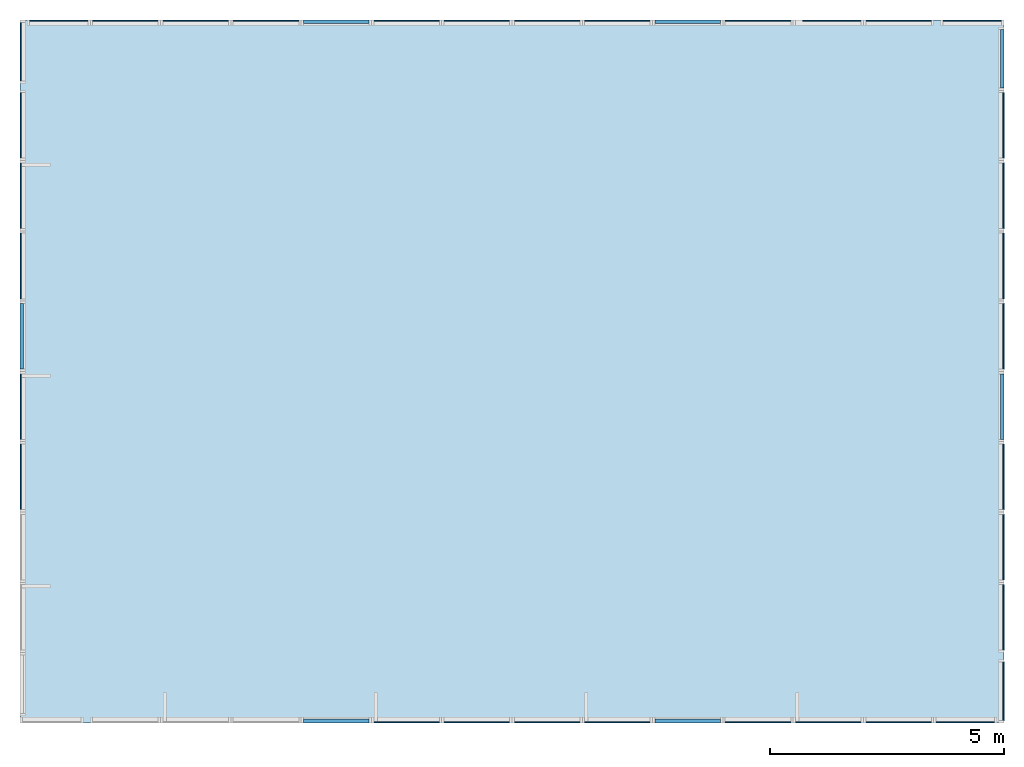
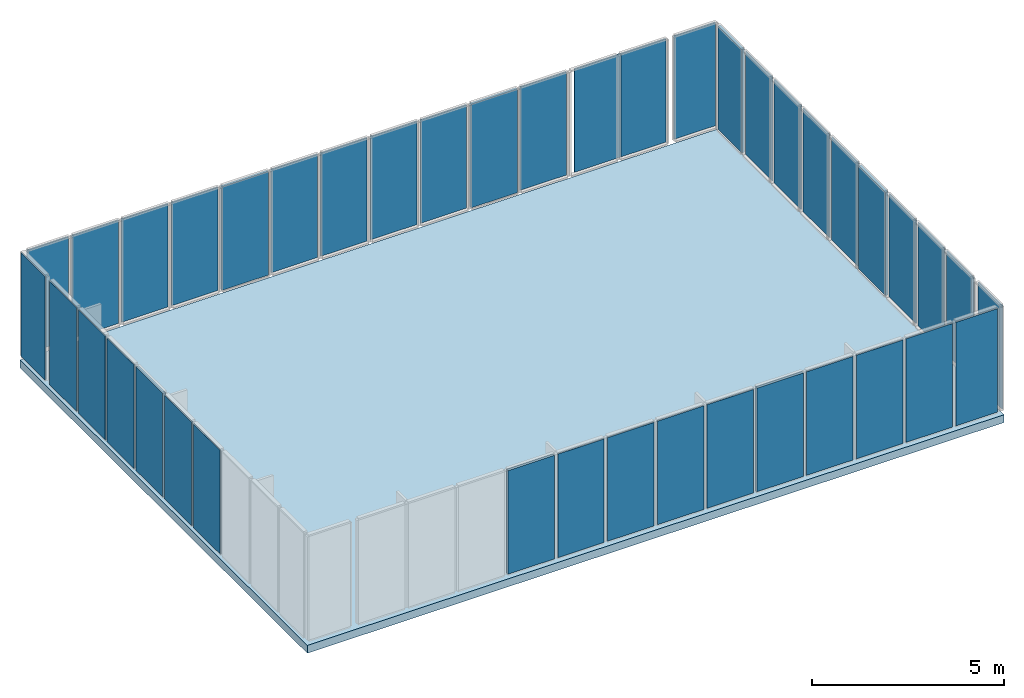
# One storey, part 3 of 3: 41 plates, 1 slab.
"""IFC4 building model written with IfcOpenShell, lengths in metres."""

from ifc_helpers import new_model, si_unit, frame, origin_with_axes, place, context, subcontext, project, spatial, indexed_curve, outline, extrude, material, element, save


model = new_model("IFC4")

# Units and contexts
model_context = context("Model", 3, precision=1e-05, world=origin_with_axes())
body_context = subcontext(model_context, "Body", "Model", "MODEL_VIEW")
ifc_project = project(units=[si_unit("AREAUNIT", "SQUARE_METRE"), si_unit("VOLUMEUNIT", "CUBIC_METRE"), si_unit("LENGTHUNIT", "METRE")], contexts=[model_context])

# Site, building, storey
site = spatial("IfcSite", under=ifc_project, Name="Synthetic Site")
building = spatial("IfcBuilding", under=site, Name="Complex Tower")
storey_placement = place(None, frame((0.0, 0.0, 27.0), z_axis=(0.0, 0.0, 1.0), x_axis=(1.0, 0.0, 0.0)))
storey = spatial("IfcBuildingStorey", under=building, at=storey_placement, Name="L08", Elevation=27.0)

# Plates
ifc_material_1 = material(Name="Aluminium")
plate_1_placement = place(storey_placement, frame((9.05, 1.5, 0.14999999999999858), z_axis=(0.0, 0.0, 1.0), x_axis=(1.0, 0.0, 0.0)))
element("IfcPlate", 1, at=plate_1_placement, inside=storey, material=ifc_material_1, Name="CT-L08-S-005", PredefinedType="SHEET", context=body_context, shape_type="SweptSolid", body=[
    extrude(outline(indexed_curve([(0.0, 0.0), (0.0, 0.08), (1.4, 0.08), (1.4, 0.0), (0.0, 0.0)], self_intersect=False)), origin_with_axes(), (0.0, 0.0, 1.0), 3.3000000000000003),
])
ifc_material_2 = material(Name="Glass")
for number, where, z_axis, x_axis, name in (
    (2, (10.55, 1.5, 0.14999999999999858), (0.0, 0.0, 1.0), (1.0, 0.0, 0.0), "CT-L08-S-006"),
    (3, (12.05, 1.5, 0.14999999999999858), (0.0, 0.0, 1.0), (1.0, 0.0, 0.0), "CT-L08-S-007"),
    (4, (13.55, 1.5, 0.14999999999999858), (0.0, 0.0, 1.0), (1.0, 0.0, 0.0), "CT-L08-S-008"),
    (5, (15.05, 1.5, 0.14999999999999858), (0.0, 0.0, 1.0), (1.0, 0.0, 0.0), "CT-L08-S-009"),
):
    element("IfcPlate", number, at=place(storey_placement, frame(where, z_axis=z_axis, x_axis=x_axis)), inside=storey, material=ifc_material_2, Name=name, PredefinedType="CURTAIN_PANEL", context=body_context, shape_type="SweptSolid", body=[
        extrude(outline(indexed_curve([(0.0, 0.0), (0.0, 0.028), (1.4, 0.028), (1.4, 0.0), (0.0, 0.0)], self_intersect=False)), origin_with_axes(), (0.0, 0.0, 1.0), 3.3000000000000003),
    ])
plate_2_placement = place(storey_placement, frame((16.55, 1.5, 0.14999999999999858), z_axis=(0.0, 0.0, 1.0), x_axis=(1.0, 0.0, 0.0)))
element("IfcPlate", 6, at=plate_2_placement, inside=storey, material=ifc_material_1, Name="CT-L08-S-010", PredefinedType="SHEET", context=body_context, shape_type="SweptSolid", body=[
    extrude(outline(indexed_curve([(0.0, 0.0), (0.0, 0.08), (1.4, 0.08), (1.4, 0.0), (0.0, 0.0)], self_intersect=False)), origin_with_axes(), (0.0, 0.0, 1.0), 3.3000000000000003),
])
for number, where, z_axis, x_axis, name in (
    (7, (18.05, 1.5, 0.14999999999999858), (0.0, 0.0, 1.0), (1.0, 0.0, 0.0), "CT-L08-S-011"),
    (8, (19.55, 1.5, 0.14999999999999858), (0.0, 0.0, 1.0), (1.0, 0.0, 0.0), "CT-L08-S-012"),
    (9, (21.05, 1.5, 0.14999999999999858), (0.0, 0.0, 1.0), (1.0, 0.0, 0.0), "CT-L08-S-013"),
):
    element("IfcPlate", number, at=place(storey_placement, frame(where, z_axis=z_axis, x_axis=x_axis)), inside=storey, material=ifc_material_2, Name=name, PredefinedType="CURTAIN_PANEL", context=body_context, shape_type="SweptSolid", body=[
        extrude(outline(indexed_curve([(0.0, 0.0), (0.0, 0.028), (1.4, 0.028), (1.4, 0.0), (0.0, 0.0)], self_intersect=False)), origin_with_axes(), (0.0, 0.0, 1.0), 3.3000000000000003),
    ])
for number, where, z_axis, x_axis, name in (
    (10, (22.55, 1.5, 0.14999999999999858), (0.0, 0.0, 1.0), (1.0, 0.0, 0.0), "CT-L08-S-014"),
    (11, (24.0, 1.55, 0.14999999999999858), (0.0, 0.0, 1.0), (6.123233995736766e-17, 1.0, 0.0), "CT-L08-E-001"),
):
    element("IfcPlate", number, at=place(storey_placement, frame(where, z_axis=z_axis, x_axis=x_axis)), inside=storey, material=ifc_material_2, Name=name, PredefinedType="CURTAIN_PANEL", context=body_context, shape_type="SweptSolid", body=[
        extrude(outline(indexed_curve([(0.0, 0.0), (0.0, 0.028), (1.25, 0.028), (1.25, 0.0), (0.0, 0.0)], self_intersect=False)), origin_with_axes(), (0.0, 0.0, 1.0), 3.3000000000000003),
    ])
for number, where, z_axis, x_axis, name in (
    (12, (24.0, 3.05, 0.14999999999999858), (0.0, 0.0, 1.0), (6.123233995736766e-17, 1.0, 0.0), "CT-L08-E-002"),
    (13, (24.0, 4.55, 0.14999999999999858), (0.0, 0.0, 1.0), (6.123233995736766e-17, 1.0, 0.0), "CT-L08-E-003"),
    (14, (24.0, 6.05, 0.14999999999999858), (0.0, 0.0, 1.0), (6.123233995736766e-17, 1.0, 0.0), "CT-L08-E-004"),
):
    element("IfcPlate", number, at=place(storey_placement, frame(where, z_axis=z_axis, x_axis=x_axis)), inside=storey, material=ifc_material_2, Name=name, PredefinedType="CURTAIN_PANEL", context=body_context, shape_type="SweptSolid", body=[
        extrude(outline(indexed_curve([(0.0, 0.0), (0.0, 0.028), (1.4, 0.028), (1.4, 0.0), (0.0, 0.0)], self_intersect=False)), origin_with_axes(), (0.0, 0.0, 1.0), 3.3000000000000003),
    ])
plate_3_placement = place(storey_placement, frame((24.0, 7.55, 0.14999999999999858), z_axis=(0.0, 0.0, 1.0), x_axis=(6.123233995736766e-17, 1.0, 0.0)))
element("IfcPlate", 15, at=plate_3_placement, inside=storey, material=ifc_material_1, Name="CT-L08-E-005", PredefinedType="SHEET", context=body_context, shape_type="SweptSolid", body=[
    extrude(outline(indexed_curve([(0.0, 0.0), (0.0, 0.08), (1.4, 0.08), (1.4, 0.0), (0.0, 0.0)], self_intersect=False)), origin_with_axes(), (0.0, 0.0, 1.0), 3.3000000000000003),
])
for number, where, z_axis, x_axis, name in (
    (16, (24.0, 9.05, 0.14999999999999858), (0.0, 0.0, 1.0), (6.123233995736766e-17, 1.0, 0.0), "CT-L08-E-006"),
    (17, (24.0, 10.55, 0.14999999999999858), (0.0, 0.0, 1.0), (6.123233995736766e-17, 1.0, 0.0), "CT-L08-E-007"),
    (18, (24.0, 12.05, 0.14999999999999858), (0.0, 0.0, 1.0), (6.123233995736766e-17, 1.0, 0.0), "CT-L08-E-008"),
    (19, (24.0, 13.55, 0.14999999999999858), (0.0, 0.0, 1.0), (6.123233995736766e-17, 1.0, 0.0), "CT-L08-E-009"),
):
    element("IfcPlate", number, at=place(storey_placement, frame(where, z_axis=z_axis, x_axis=x_axis)), inside=storey, material=ifc_material_2, Name=name, PredefinedType="CURTAIN_PANEL", context=body_context, shape_type="SweptSolid", body=[
        extrude(outline(indexed_curve([(0.0, 0.0), (0.0, 0.028), (1.4, 0.028), (1.4, 0.0), (0.0, 0.0)], self_intersect=False)), origin_with_axes(), (0.0, 0.0, 1.0), 3.3000000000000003),
    ])
plate_4_placement = place(storey_placement, frame((24.0, 15.05, 0.14999999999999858), z_axis=(0.0, 0.0, 1.0), x_axis=(6.123233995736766e-17, 1.0, 0.0)))
element("IfcPlate", 20, at=plate_4_placement, inside=storey, material=ifc_material_1, Name="CT-L08-E-010", PredefinedType="SHEET", context=body_context, shape_type="SweptSolid", body=[
    extrude(outline(indexed_curve([(0.0, 0.0), (0.0, 0.08), (1.25, 0.08), (1.25, 0.0), (0.0, 0.0)], self_intersect=False)), origin_with_axes(), (0.0, 0.0, 1.0), 3.3000000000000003),
])
plate_5_placement = place(storey_placement, frame((23.95, 16.5, 0.14999999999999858), z_axis=(0.0, 0.0, 1.0), x_axis=(-1.0, 1.2246467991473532e-16, 0.0)))
element("IfcPlate", 21, at=plate_5_placement, inside=storey, material=ifc_material_2, Name="CT-L08-N-001", PredefinedType="CURTAIN_PANEL", context=body_context, shape_type="SweptSolid", body=[
    extrude(outline(indexed_curve([(0.0, 0.0), (0.0, 0.028), (1.25, 0.028), (1.25, 0.0), (0.0, 0.0)], self_intersect=False)), origin_with_axes(), (0.0, 0.0, 1.0), 3.3000000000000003),
])
for number, where, z_axis, x_axis, name in (
    (22, (22.45, 16.5, 0.14999999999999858), (0.0, 0.0, 1.0), (-1.0, 1.2246467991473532e-16, 0.0), "CT-L08-N-002"),
    (23, (21.099999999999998, 16.5, 0.14999999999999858), (0.0, 0.0, 1.0), (-1.0, 1.2246467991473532e-16, 0.0), "CT-L08-N-003"),
    (24, (19.45, 16.5, 0.14999999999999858), (0.0, 0.0, 1.0), (-1.0, 1.2246467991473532e-16, 0.0), "CT-L08-N-004"),
):
    element("IfcPlate", number, at=place(storey_placement, frame(where, z_axis=z_axis, x_axis=x_axis)), inside=storey, material=ifc_material_2, Name=name, PredefinedType="CURTAIN_PANEL", context=body_context, shape_type="SweptSolid", body=[
        extrude(outline(indexed_curve([(0.0, 0.0), (0.0, 0.028), (1.4, 0.028), (1.4, 0.0), (0.0, 0.0)], self_intersect=False)), origin_with_axes(), (0.0, 0.0, 1.0), 3.3000000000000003),
    ])
plate_6_placement = place(storey_placement, frame((17.95, 16.5, 0.14999999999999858), z_axis=(0.0, 0.0, 1.0), x_axis=(-1.0, 1.2246467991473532e-16, 0.0)))
element("IfcPlate", 25, at=plate_6_placement, inside=storey, material=ifc_material_1, Name="CT-L08-N-005", PredefinedType="SHEET", context=body_context, shape_type="SweptSolid", body=[
    extrude(outline(indexed_curve([(0.0, 0.0), (0.0, 0.08), (1.4, 0.08), (1.4, 0.0), (0.0, 0.0)], self_intersect=False)), origin_with_axes(), (0.0, 0.0, 1.0), 3.3000000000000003),
])
for number, where, z_axis, x_axis, name in (
    (26, (16.45, 16.5, 0.14999999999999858), (0.0, 0.0, 1.0), (-1.0, 1.2246467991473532e-16, 0.0), "CT-L08-N-006"),
    (27, (14.95, 16.5, 0.14999999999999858), (0.0, 0.0, 1.0), (-1.0, 1.2246467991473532e-16, 0.0), "CT-L08-N-007"),
    (28, (13.45, 16.5, 0.14999999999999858), (0.0, 0.0, 1.0), (-1.0, 1.2246467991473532e-16, 0.0), "CT-L08-N-008"),
    (29, (11.95, 16.5, 0.14999999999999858), (0.0, 0.0, 1.0), (-1.0, 1.2246467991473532e-16, 0.0), "CT-L08-N-009"),
):
    element("IfcPlate", number, at=place(storey_placement, frame(where, z_axis=z_axis, x_axis=x_axis)), inside=storey, material=ifc_material_2, Name=name, PredefinedType="CURTAIN_PANEL", context=body_context, shape_type="SweptSolid", body=[
        extrude(outline(indexed_curve([(0.0, 0.0), (0.0, 0.028), (1.4, 0.028), (1.4, 0.0), (0.0, 0.0)], self_intersect=False)), origin_with_axes(), (0.0, 0.0, 1.0), 3.3000000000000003),
    ])
plate_7_placement = place(storey_placement, frame((10.45, 16.5, 0.14999999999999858), z_axis=(0.0, 0.0, 1.0), x_axis=(-1.0, 1.2246467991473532e-16, 0.0)))
element("IfcPlate", 30, at=plate_7_placement, inside=storey, material=ifc_material_1, Name="CT-L08-N-010", PredefinedType="SHEET", context=body_context, shape_type="SweptSolid", body=[
    extrude(outline(indexed_curve([(0.0, 0.0), (0.0, 0.08), (1.4, 0.08), (1.4, 0.0), (0.0, 0.0)], self_intersect=False)), origin_with_axes(), (0.0, 0.0, 1.0), 3.3000000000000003),
])
for number, where, z_axis, x_axis, name in (
    (31, (8.95, 16.500000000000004, 0.14999999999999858), (0.0, 0.0, 1.0), (-1.0, 1.2246467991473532e-16, 0.0), "CT-L08-N-011"),
    (32, (7.449999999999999, 16.500000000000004, 0.14999999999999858), (0.0, 0.0, 1.0), (-1.0, 1.2246467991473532e-16, 0.0), "CT-L08-N-012"),
    (33, (5.949999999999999, 16.500000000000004, 0.14999999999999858), (0.0, 0.0, 1.0), (-1.0, 1.2246467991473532e-16, 0.0), "CT-L08-N-013"),
):
    element("IfcPlate", number, at=place(storey_placement, frame(where, z_axis=z_axis, x_axis=x_axis)), inside=storey, material=ifc_material_2, Name=name, PredefinedType="CURTAIN_PANEL", context=body_context, shape_type="SweptSolid", body=[
        extrude(outline(indexed_curve([(0.0, 0.0), (0.0, 0.028), (1.4, 0.028), (1.4, 0.0), (0.0, 0.0)], self_intersect=False)), origin_with_axes(), (0.0, 0.0, 1.0), 3.3000000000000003),
    ])
for number, where, z_axis, x_axis, name in (
    (34, (4.449999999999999, 16.500000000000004, 0.14999999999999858), (0.0, 0.0, 1.0), (-1.0, 1.2246467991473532e-16, 0.0), "CT-L08-N-014"),
    (35, (3.0, 16.45, 0.14999999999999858), (0.0, 0.0, 1.0), (-1.8369701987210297e-16, -1.0, 0.0), "CT-L08-W-001"),
):
    element("IfcPlate", number, at=place(storey_placement, frame(where, z_axis=z_axis, x_axis=x_axis)), inside=storey, material=ifc_material_2, Name=name, PredefinedType="CURTAIN_PANEL", context=body_context, shape_type="SweptSolid", body=[
        extrude(outline(indexed_curve([(0.0, 0.0), (0.0, 0.028), (1.25, 0.028), (1.25, 0.0), (0.0, 0.0)], self_intersect=False)), origin_with_axes(), (0.0, 0.0, 1.0), 3.3000000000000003),
    ])
for number, where, z_axis, x_axis, name in (
    (36, (2.9999999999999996, 14.95, 0.14999999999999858), (0.0, 0.0, 1.0), (-1.8369701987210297e-16, -1.0, 0.0), "CT-L08-W-002"),
    (37, (2.9999999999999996, 13.45, 0.14999999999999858), (0.0, 0.0, 1.0), (-1.8369701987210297e-16, -1.0, 0.0), "CT-L08-W-003"),
    (38, (2.999999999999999, 11.95, 0.14999999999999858), (0.0, 0.0, 1.0), (-1.8369701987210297e-16, -1.0, 0.0), "CT-L08-W-004"),
):
    element("IfcPlate", number, at=place(storey_placement, frame(where, z_axis=z_axis, x_axis=x_axis)), inside=storey, material=ifc_material_2, Name=name, PredefinedType="CURTAIN_PANEL", context=body_context, shape_type="SweptSolid", body=[
        extrude(outline(indexed_curve([(0.0, 0.0), (0.0, 0.028), (1.4, 0.028), (1.4, 0.0), (0.0, 0.0)], self_intersect=False)), origin_with_axes(), (0.0, 0.0, 1.0), 3.3000000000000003),
    ])
plate_8_placement = place(storey_placement, frame((2.9999999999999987, 10.45, 0.14999999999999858), z_axis=(0.0, 0.0, 1.0), x_axis=(-1.8369701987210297e-16, -1.0, 0.0)))
element("IfcPlate", 39, at=plate_8_placement, inside=storey, material=ifc_material_1, Name="CT-L08-W-005", PredefinedType="SHEET", context=body_context, shape_type="SweptSolid", body=[
    extrude(outline(indexed_curve([(0.0, 0.0), (0.0, 0.08), (1.4, 0.08), (1.4, 0.0), (0.0, 0.0)], self_intersect=False)), origin_with_axes(), (0.0, 0.0, 1.0), 3.3000000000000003),
])
for number, where, z_axis, x_axis, name in (
    (40, (2.9999999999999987, 8.95, 0.14999999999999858), (0.0, 0.0, 1.0), (-1.8369701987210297e-16, -1.0, 0.0), "CT-L08-W-006"),
    (41, (2.9999999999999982, 7.449999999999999, 0.14999999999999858), (0.0, 0.0, 1.0), (-1.8369701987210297e-16, -1.0, 0.0), "CT-L08-W-007"),
):
    element("IfcPlate", number, at=place(storey_placement, frame(where, z_axis=z_axis, x_axis=x_axis)), inside=storey, material=ifc_material_2, Name=name, PredefinedType="CURTAIN_PANEL", context=body_context, shape_type="SweptSolid", body=[
        extrude(outline(indexed_curve([(0.0, 0.0), (0.0, 0.028), (1.4, 0.028), (1.4, 0.0), (0.0, 0.0)], self_intersect=False)), origin_with_axes(), (0.0, 0.0, 1.0), 3.3000000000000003),
    ])

# Slab
ifc_material_3 = material(Name="Concrete")
slab_placement = place(storey_placement, frame((3.0, 1.5, -0.25), z_axis=(0.0, 0.0, 1.0), x_axis=(1.0, 0.0, 0.0)))
element("IfcSlab", 42, at=slab_placement, inside=storey, material=ifc_material_3, Name="CT-SLAB-08", PredefinedType="FLOOR", context=body_context, shape_type="SweptSolid", body=[
    extrude(outline(indexed_curve([(0.0, 0.0), (0.0, 15.0), (21.0, 15.0), (21.0, 0.0), (0.0, 0.0)], self_intersect=False)), origin_with_axes(), (0.0, 0.0, 1.0), 0.25),
])

save(model, "model.ifc")
